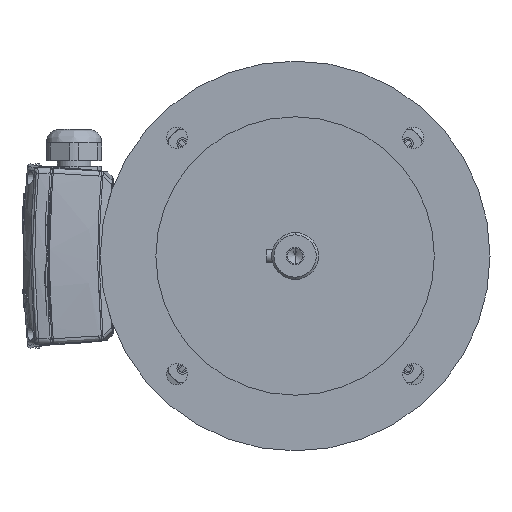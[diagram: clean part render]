
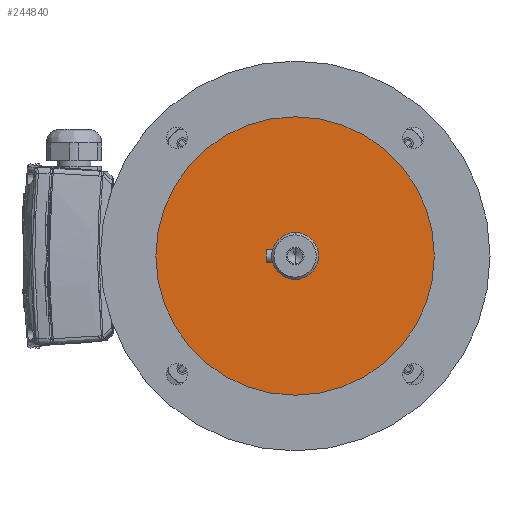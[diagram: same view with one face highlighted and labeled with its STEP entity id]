
A CAD part, left-side view. The second image highlights one B-rep face of the part: STEP entity #244840.
In plain terms, the highlighted planar face has unit normal (-1, 0, 0).
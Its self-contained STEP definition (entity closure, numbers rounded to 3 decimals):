
#32054 = EDGE_LOOP ( 'NONE', ( #72061, #222255 ) ) ;
#48114 = CARTESIAN_POINT ( 'NONE',  ( 0., 0., 0. ) ) ;
#64388 = DIRECTION ( 'NONE',  ( 0., 0., -1. ) ) ;
#70017 = DIRECTION ( 'NONE',  ( 0., 0., 1. ) ) ;
#72061 = ORIENTED_EDGE ( 'NONE', *, *, #148207, .F. ) ;
#72078 = AXIS2_PLACEMENT_3D ( 'NONE', #173267, #129301, #64388 ) ;
#114147 = CARTESIAN_POINT ( 'NONE',  ( 0., 0., 0. ) ) ;
#129301 = DIRECTION ( 'NONE',  ( 1., 0., 0. ) ) ;
#131308 = CARTESIAN_POINT ( 'NONE',  ( 0., 0., -125. ) ) ;
#136160 = DIRECTION ( 'NONE',  ( 0., 0., 1. ) ) ;
#148207 = EDGE_CURVE ( 'NONE', #183383, #276669, #233712, .T. ) ;
#163715 = CARTESIAN_POINT ( 'NONE',  ( 0., 0., 125. ) ) ;
#173267 = CARTESIAN_POINT ( 'NONE',  ( 0., 0., 0. ) ) ;
#183383 = VERTEX_POINT ( 'NONE', #163715 ) ;
#195298 = PLANE ( 'NONE',  #72078 ) ;
#196779 = CIRCLE ( 'NONE', #272276, 125. ) ;
#200929 = DIRECTION ( 'NONE',  ( 1., 0., 0. ) ) ;
#222255 = ORIENTED_EDGE ( 'NONE', *, *, #263770, .F. ) ;
#233712 = CIRCLE ( 'NONE', #235311, 125. ) ;
#235311 = AXIS2_PLACEMENT_3D ( 'NONE', #114147, #267195, #136160 ) ;
#244840 = ADVANCED_FACE ( 'NONE', ( #263685 ), #195298, .F. ) ;
#263685 = FACE_OUTER_BOUND ( 'NONE', #32054, .T. ) ;
#263770 = EDGE_CURVE ( 'NONE', #276669, #183383, #196779, .T. ) ;
#267195 = DIRECTION ( 'NONE',  ( 1., 0., 0. ) ) ;
#272276 = AXIS2_PLACEMENT_3D ( 'NONE', #48114, #200929, #70017 ) ;
#276669 = VERTEX_POINT ( 'NONE', #131308 ) ;
